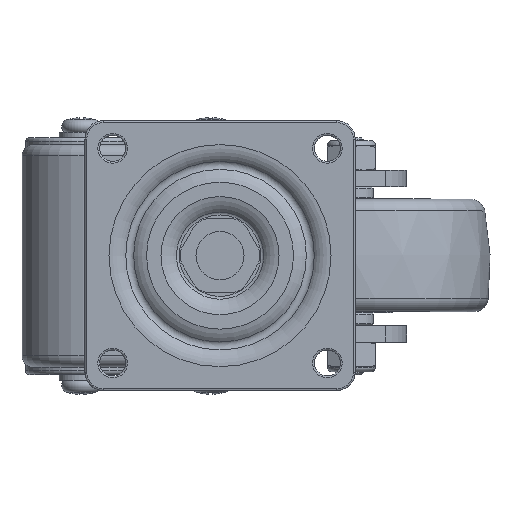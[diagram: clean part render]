
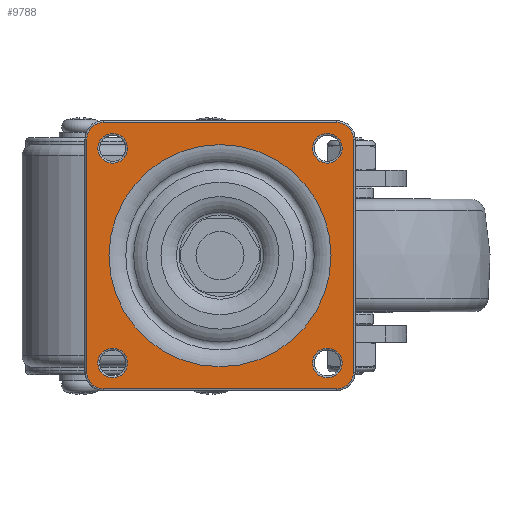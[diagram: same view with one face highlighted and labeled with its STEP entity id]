
A CAD part, top view. The second image highlights one B-rep face of the part: STEP entity #9788.
In plain terms, the highlighted planar face has unit normal (0, 0, 1) as drawn and (0, 1, 0) by its records, which use the part's own axes.
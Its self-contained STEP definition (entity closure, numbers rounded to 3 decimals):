
#491=FACE_BOUND('',#1279,.T.);
#492=FACE_BOUND('',#1280,.T.);
#493=FACE_BOUND('',#1281,.T.);
#494=FACE_BOUND('',#1282,.T.);
#495=FACE_BOUND('',#1283,.T.);
#695=FACE_OUTER_BOUND('',#1278,.T.);
#1278=EDGE_LOOP('',(#7167,#7168,#7169,#7170,#7171,#7172,#7173,#7174));
#1279=EDGE_LOOP('',(#7175));
#1280=EDGE_LOOP('',(#7176));
#1281=EDGE_LOOP('',(#7177));
#1282=EDGE_LOOP('',(#7178));
#1283=EDGE_LOOP('',(#7179));
#2246=LINE('',#15136,#2950);
#2247=LINE('',#15140,#2951);
#2248=LINE('',#15144,#2952);
#2249=LINE('',#15148,#2953);
#2950=VECTOR('',#12100,63.);
#2951=VECTOR('',#12103,63.);
#2952=VECTOR('',#12106,63.);
#2953=VECTOR('',#12109,63.);
#3543=CIRCLE('',#10424,29.999);
#3552=CIRCLE('',#10437,4.);
#3560=CIRCLE('',#10448,4.);
#3568=CIRCLE('',#10459,4.);
#3576=CIRCLE('',#10470,4.);
#3654=CIRCLE('',#10649,4.5);
#3655=CIRCLE('',#10650,4.5);
#3656=CIRCLE('',#10651,4.5);
#3657=CIRCLE('',#10652,4.5);
#3993=VERTEX_POINT('',#14174);
#4001=VERTEX_POINT('',#14198);
#4007=VERTEX_POINT('',#14216);
#4013=VERTEX_POINT('',#14234);
#4019=VERTEX_POINT('',#14252);
#4196=VERTEX_POINT('',#15134);
#4197=VERTEX_POINT('',#15135);
#4198=VERTEX_POINT('',#15137);
#4199=VERTEX_POINT('',#15139);
#4200=VERTEX_POINT('',#15141);
#4201=VERTEX_POINT('',#15143);
#4202=VERTEX_POINT('',#15145);
#4203=VERTEX_POINT('',#15147);
#5002=EDGE_CURVE('',#3993,#3993,#3543,.T.);
#5013=EDGE_CURVE('',#4001,#4001,#3552,.T.);
#5022=EDGE_CURVE('',#4007,#4007,#3560,.T.);
#5031=EDGE_CURVE('',#4013,#4013,#3568,.T.);
#5040=EDGE_CURVE('',#4019,#4019,#3576,.T.);
#5320=EDGE_CURVE('',#4196,#4197,#2246,.T.);
#5321=EDGE_CURVE('',#4198,#4196,#3654,.T.);
#5322=EDGE_CURVE('',#4199,#4198,#2247,.T.);
#5323=EDGE_CURVE('',#4200,#4199,#3655,.T.);
#5324=EDGE_CURVE('',#4201,#4200,#2248,.T.);
#5325=EDGE_CURVE('',#4202,#4201,#3656,.T.);
#5326=EDGE_CURVE('',#4203,#4202,#2249,.T.);
#5327=EDGE_CURVE('',#4197,#4203,#3657,.T.);
#7167=ORIENTED_EDGE('',*,*,#5320,.F.);
#7168=ORIENTED_EDGE('',*,*,#5321,.F.);
#7169=ORIENTED_EDGE('',*,*,#5322,.F.);
#7170=ORIENTED_EDGE('',*,*,#5323,.F.);
#7171=ORIENTED_EDGE('',*,*,#5324,.F.);
#7172=ORIENTED_EDGE('',*,*,#5325,.F.);
#7173=ORIENTED_EDGE('',*,*,#5326,.F.);
#7174=ORIENTED_EDGE('',*,*,#5327,.F.);
#7175=ORIENTED_EDGE('',*,*,#5031,.F.);
#7176=ORIENTED_EDGE('',*,*,#5013,.F.);
#7177=ORIENTED_EDGE('',*,*,#5002,.F.);
#7178=ORIENTED_EDGE('',*,*,#5022,.F.);
#7179=ORIENTED_EDGE('',*,*,#5040,.F.);
#9464=PLANE('',#10648);
#9788=ADVANCED_FACE('',(#695,#491,#492,#493,#494,#495),#9464,.T.);
#10424=AXIS2_PLACEMENT_3D('',#14176,#11487,#11488);
#10437=AXIS2_PLACEMENT_3D('',#14199,#11515,#11516);
#10448=AXIS2_PLACEMENT_3D('',#14217,#11538,#11539);
#10459=AXIS2_PLACEMENT_3D('',#14235,#11561,#11562);
#10470=AXIS2_PLACEMENT_3D('',#14253,#11584,#11585);
#10648=AXIS2_PLACEMENT_3D('',#15133,#12098,#12099);
#10649=AXIS2_PLACEMENT_3D('',#15138,#12101,#12102);
#10650=AXIS2_PLACEMENT_3D('',#15142,#12104,#12105);
#10651=AXIS2_PLACEMENT_3D('',#15146,#12107,#12108);
#10652=AXIS2_PLACEMENT_3D('',#15149,#12110,#12111);
#11487=DIRECTION('center_axis',(0.,1.,0.));
#11488=DIRECTION('ref_axis',(0.,0.,-1.));
#11515=DIRECTION('center_axis',(0.,1.,0.));
#11516=DIRECTION('ref_axis',(0.,0.,-1.));
#11538=DIRECTION('center_axis',(0.,1.,0.));
#11539=DIRECTION('ref_axis',(0.,0.,-1.));
#11561=DIRECTION('center_axis',(0.,1.,0.));
#11562=DIRECTION('ref_axis',(0.,0.,-1.));
#11584=DIRECTION('center_axis',(0.,1.,0.));
#11585=DIRECTION('ref_axis',(0.,0.,-1.));
#12098=DIRECTION('center_axis',(0.,1.,0.));
#12099=DIRECTION('ref_axis',(0.,0.,1.));
#12100=DIRECTION('',(0.,0.,1.));
#12101=DIRECTION('center_axis',(0.,-1.,0.));
#12102=DIRECTION('ref_axis',(0.707,0.,-0.707));
#12103=DIRECTION('',(1.,0.,0.));
#12104=DIRECTION('center_axis',(0.,-1.,0.));
#12105=DIRECTION('ref_axis',(-0.707,0.,-0.707));
#12106=DIRECTION('',(0.,0.,-1.));
#12107=DIRECTION('center_axis',(0.,-1.,0.));
#12108=DIRECTION('ref_axis',(-0.707,0.,0.707));
#12109=DIRECTION('',(-1.,0.,0.));
#12110=DIRECTION('center_axis',(0.,-1.,0.));
#12111=DIRECTION('ref_axis',(0.707,0.,0.707));
#14174=CARTESIAN_POINT('',(148.969,52.75,-282.093));
#14176=CARTESIAN_POINT('Origin',(148.969,52.75,-252.094));
#14198=CARTESIAN_POINT('',(177.969,52.75,-277.094));
#14199=CARTESIAN_POINT('Origin',(177.969,52.75,-281.094));
#14216=CARTESIAN_POINT('',(177.969,52.75,-219.094));
#14217=CARTESIAN_POINT('Origin',(177.969,52.75,-223.094));
#14234=CARTESIAN_POINT('',(119.969,52.75,-219.094));
#14235=CARTESIAN_POINT('Origin',(119.969,52.75,-223.094));
#14252=CARTESIAN_POINT('',(119.969,52.75,-277.094));
#14253=CARTESIAN_POINT('Origin',(119.969,52.75,-281.094));
#15133=CARTESIAN_POINT('Origin',(148.969,52.75,-251.126));
#15134=CARTESIAN_POINT('',(184.969,52.75,-283.594));
#15135=CARTESIAN_POINT('',(184.969,52.75,-220.594));
#15136=CARTESIAN_POINT('',(184.969,52.75,-283.594));
#15137=CARTESIAN_POINT('',(180.469,52.75,-288.094));
#15138=CARTESIAN_POINT('Origin',(180.469,52.75,-283.594));
#15139=CARTESIAN_POINT('',(117.469,52.75,-288.094));
#15140=CARTESIAN_POINT('',(117.469,52.75,-288.094));
#15141=CARTESIAN_POINT('',(112.969,52.75,-283.594));
#15142=CARTESIAN_POINT('Origin',(117.469,52.75,-283.594));
#15143=CARTESIAN_POINT('',(112.969,52.75,-220.594));
#15144=CARTESIAN_POINT('',(112.969,52.75,-220.594));
#15145=CARTESIAN_POINT('',(117.469,52.75,-216.094));
#15146=CARTESIAN_POINT('Origin',(117.469,52.75,-220.594));
#15147=CARTESIAN_POINT('',(180.469,52.75,-216.094));
#15148=CARTESIAN_POINT('',(180.469,52.75,-216.094));
#15149=CARTESIAN_POINT('Origin',(180.469,52.75,-220.594));
